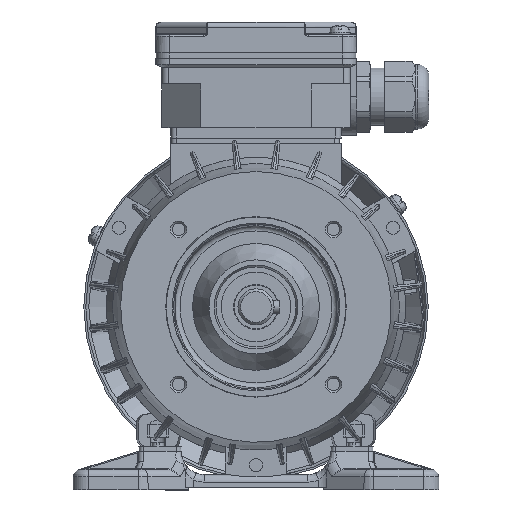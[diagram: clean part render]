
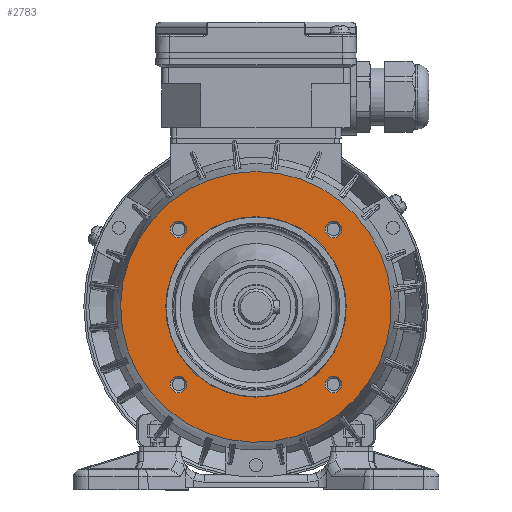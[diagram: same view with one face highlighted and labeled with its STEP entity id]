
A CAD part, front view. The second image highlights one B-rep face of the part: STEP entity #2783.
In plain terms, the highlighted planar face has unit normal (0, -1, 0) as drawn and (-1, 0, 0) by its records, which use the part's own axes.
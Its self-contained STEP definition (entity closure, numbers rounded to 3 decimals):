
#2783 = ADVANCED_FACE( '', ( #6203, #6204, #6205, #6206, #6207, #6208 ), #6209, .F. );
#6203 = FACE_BOUND( '', #15147, .T. );
#6204 = FACE_BOUND( '', #15148, .T. );
#6205 = FACE_BOUND( '', #15149, .T. );
#6206 = FACE_BOUND( '', #15150, .T. );
#6207 = FACE_BOUND( '', #15151, .T. );
#6208 = FACE_OUTER_BOUND( '', #15152, .T. );
#6209 = PLANE( '', #15153 );
#15147 = EDGE_LOOP( '', ( #36427 ) );
#15148 = EDGE_LOOP( '', ( #36428 ) );
#15149 = EDGE_LOOP( '', ( #36429 ) );
#15150 = EDGE_LOOP( '', ( #36430 ) );
#15151 = EDGE_LOOP( '', ( #36431 ) );
#15152 = EDGE_LOOP( '', ( #36432 ) );
#15153 = AXIS2_PLACEMENT_3D( '', #36433, #36434, #36435 );
#36427 = ORIENTED_EDGE( '', *, *, #49078, .T. );
#36428 = ORIENTED_EDGE( '', *, *, #47439, .T. );
#36429 = ORIENTED_EDGE( '', *, *, #48755, .T. );
#36430 = ORIENTED_EDGE( '', *, *, #49079, .T. );
#36431 = ORIENTED_EDGE( '', *, *, #49080, .F. );
#36432 = ORIENTED_EDGE( '', *, *, #47326, .T. );
#36433 = CARTESIAN_POINT( '', ( 2.5, 0., 52.5 ) );
#36434 = DIRECTION( '', ( 1., 0., 0. ) );
#36435 = DIRECTION( '', ( 0., 0., -1. ) );
#47326 = EDGE_CURVE( '', #58129, #58129, #58130, .T. );
#47439 = EDGE_CURVE( '', #58335, #58335, #58336, .T. );
#48755 = EDGE_CURVE( '', #60576, #60576, #60577, .T. );
#49078 = EDGE_CURVE( '', #61083, #61083, #61084, .T. );
#49079 = EDGE_CURVE( '', #61085, #61085, #61086, .T. );
#49080 = EDGE_CURVE( '', #61087, #61087, #61088, .T. );
#58129 = VERTEX_POINT( '', #69478 );
#58130 = CIRCLE( '', #69479, 52.5 );
#58335 = VERTEX_POINT( '', #70079 );
#58336 = CIRCLE( '', #70080, 3.259 );
#60576 = VERTEX_POINT( '', #75703 );
#60577 = CIRCLE( '', #75704, 3.259 );
#61083 = VERTEX_POINT( '', #77204 );
#61084 = CIRCLE( '', #77205, 3.259 );
#61085 = VERTEX_POINT( '', #77206 );
#61086 = CIRCLE( '', #77207, 3.259 );
#61087 = VERTEX_POINT( '', #77208 );
#61088 = CIRCLE( '', #77209, 35. );
#69478 = CARTESIAN_POINT( '', ( 2.5, 0., 52.5 ) );
#69479 = AXIS2_PLACEMENT_3D( '', #91465, #91466, #91467 );
#70079 = CARTESIAN_POINT( '', ( 2.5, 26.794, -30.052 ) );
#70080 = AXIS2_PLACEMENT_3D( '', #91611, #91612, #91613 );
#75703 = CARTESIAN_POINT( '', ( 2.5, -33.311, -30.052 ) );
#75704 = AXIS2_PLACEMENT_3D( '', #93245, #93246, #93247 );
#77204 = CARTESIAN_POINT( '', ( 2.5, 26.794, 30.052 ) );
#77205 = AXIS2_PLACEMENT_3D( '', #93564, #93565, #93566 );
#77206 = CARTESIAN_POINT( '', ( 2.5, -33.311, 30.052 ) );
#77207 = AXIS2_PLACEMENT_3D( '', #93567, #93568, #93569 );
#77208 = CARTESIAN_POINT( '', ( 2.5, 0., 35. ) );
#77209 = AXIS2_PLACEMENT_3D( '', #93570, #93571, #93572 );
#91465 = CARTESIAN_POINT( '', ( 2.5, 0., 0. ) );
#91466 = DIRECTION( '', ( -1., 0., 0. ) );
#91467 = DIRECTION( '', ( 0., 0., 1. ) );
#91611 = CARTESIAN_POINT( '', ( 2.5, 30.052, -30.052 ) );
#91612 = DIRECTION( '', ( 1., 0., 0. ) );
#91613 = DIRECTION( '', ( 0., -1., 0. ) );
#93245 = CARTESIAN_POINT( '', ( 2.5, -30.052, -30.052 ) );
#93246 = DIRECTION( '', ( 1., 0., 0. ) );
#93247 = DIRECTION( '', ( 0., -1., 0. ) );
#93564 = CARTESIAN_POINT( '', ( 2.5, 30.052, 30.052 ) );
#93565 = DIRECTION( '', ( 1., 0., 0. ) );
#93566 = DIRECTION( '', ( 0., -1., 0. ) );
#93567 = CARTESIAN_POINT( '', ( 2.5, -30.052, 30.052 ) );
#93568 = DIRECTION( '', ( 1., 0., 0. ) );
#93569 = DIRECTION( '', ( 0., -1., 0. ) );
#93570 = CARTESIAN_POINT( '', ( 2.5, 0., 0. ) );
#93571 = DIRECTION( '', ( -1., 0., 0. ) );
#93572 = DIRECTION( '', ( 0., 0., 1. ) );
